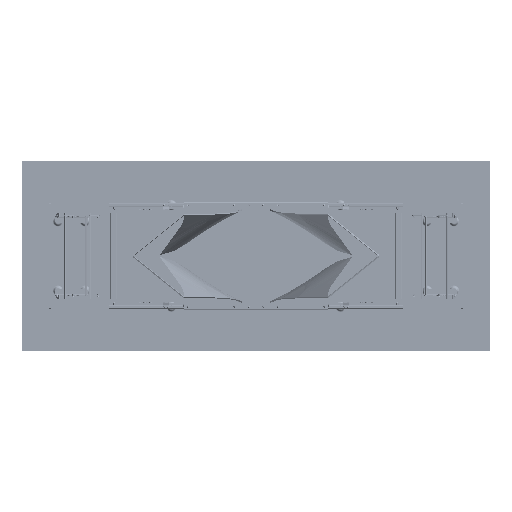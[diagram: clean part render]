
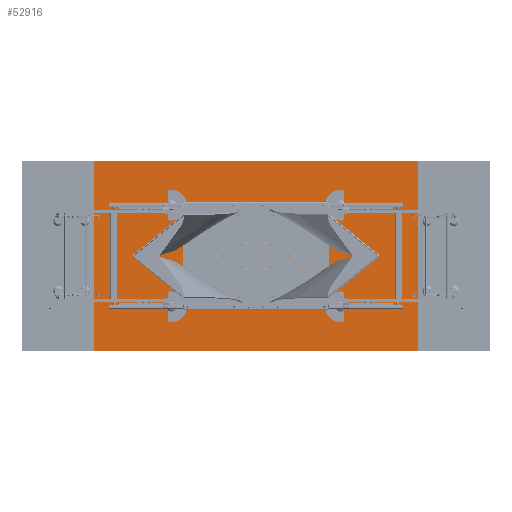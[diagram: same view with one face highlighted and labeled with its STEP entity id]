
A CAD part, front view. The second image highlights one B-rep face of the part: STEP entity #52916.
In plain terms, the highlighted planar face has unit normal (0, -1, 0).
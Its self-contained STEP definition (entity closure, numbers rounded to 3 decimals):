
#379 = CARTESIAN_POINT ( 'NONE',  ( -900., 0., -530. ) ) ;
#3706 = DIRECTION ( 'NONE',  ( -1., 0., 0. ) ) ;
#7508 = CARTESIAN_POINT ( 'NONE',  ( 900., 0., -530. ) ) ;
#8368 = FACE_OUTER_BOUND ( 'NONE', #51134, .T. ) ;
#11878 = CARTESIAN_POINT ( 'NONE',  ( 900., 0., 530. ) ) ;
#12881 = DIRECTION ( 'NONE',  ( 0., 0., 1. ) ) ;
#17434 = CARTESIAN_POINT ( 'NONE',  ( -900., 0., -530. ) ) ;
#17569 = VERTEX_POINT ( 'NONE', #11878 ) ;
#18895 = CARTESIAN_POINT ( 'NONE',  ( 0., 0., 0. ) ) ;
#20606 = CARTESIAN_POINT ( 'NONE',  ( 900., 0., -530. ) ) ;
#23955 = VERTEX_POINT ( 'NONE', #20606 ) ;
#24926 = DIRECTION ( 'NONE',  ( 0., 0., 1. ) ) ;
#28655 = ORIENTED_EDGE ( 'NONE', *, *, #51369, .F. ) ;
#29269 = ORIENTED_EDGE ( 'NONE', *, *, #47514, .T. ) ;
#32955 = EDGE_CURVE ( 'NONE', #23955, #17569, #51732, .T. ) ;
#38083 = DIRECTION ( 'NONE',  ( 0., 0., 1. ) ) ;
#38384 = VECTOR ( 'NONE', #55003, 1000. ) ;
#43327 = CARTESIAN_POINT ( 'NONE',  ( 900., 0., 530. ) ) ;
#43894 = ORIENTED_EDGE ( 'NONE', *, *, #78836, .F. ) ;
#46347 = CARTESIAN_POINT ( 'NONE',  ( 900., 0., -530. ) ) ;
#47514 = EDGE_CURVE ( 'NONE', #17569, #79142, #60211, .T. ) ;
#49951 = AXIS2_PLACEMENT_3D ( 'NONE', #18895, #67953, #12881 ) ;
#51134 = EDGE_LOOP ( 'NONE', ( #43894, #61920, #29269, #28655 ) ) ;
#51369 = EDGE_CURVE ( 'NONE', #56676, #79142, #55487, .T. ) ;
#51732 = LINE ( 'NONE', #7508, #78070 ) ;
#52916 = ADVANCED_FACE ( 'NONE', ( #8368 ), #57444, .F. ) ;
#55003 = DIRECTION ( 'NONE',  ( -1., 0., 0. ) ) ;
#55243 = VECTOR ( 'NONE', #3706, 1000. ) ;
#55487 = LINE ( 'NONE', #379, #58682 ) ;
#56676 = VERTEX_POINT ( 'NONE', #17434 ) ;
#57444 = PLANE ( 'NONE',  #49951 ) ;
#58682 = VECTOR ( 'NONE', #24926, 1000. ) ;
#60211 = LINE ( 'NONE', #43327, #38384 ) ;
#61920 = ORIENTED_EDGE ( 'NONE', *, *, #32955, .T. ) ;
#66034 = LINE ( 'NONE', #46347, #55243 ) ;
#67953 = DIRECTION ( 'NONE',  ( 0., 1., 0. ) ) ;
#76028 = CARTESIAN_POINT ( 'NONE',  ( -900., 0., 530. ) ) ;
#78070 = VECTOR ( 'NONE', #38083, 1000. ) ;
#78836 = EDGE_CURVE ( 'NONE', #23955, #56676, #66034, .T. ) ;
#79142 = VERTEX_POINT ( 'NONE', #76028 ) ;
